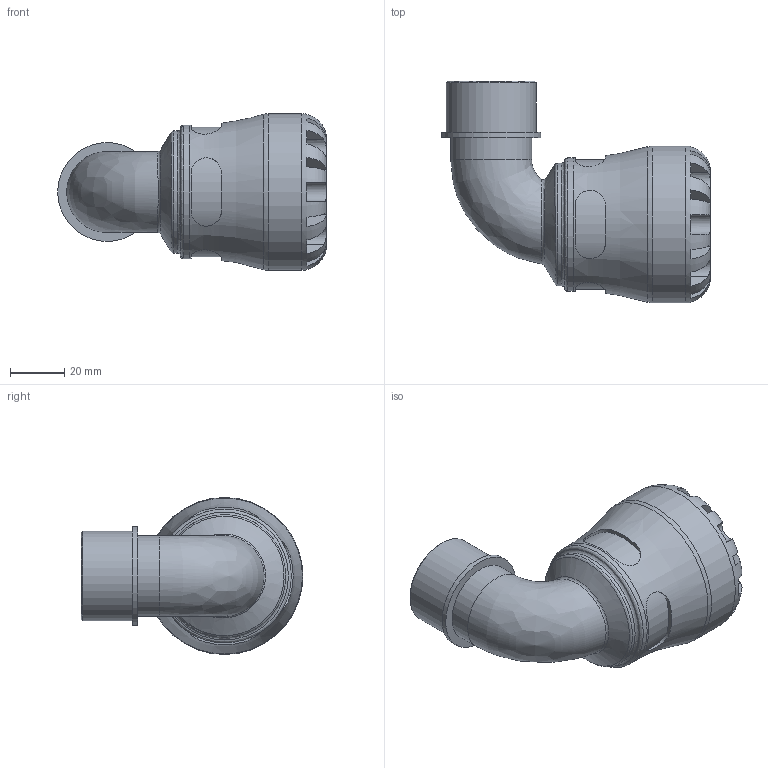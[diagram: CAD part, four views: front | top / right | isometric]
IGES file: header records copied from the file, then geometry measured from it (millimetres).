
Global section: file name: 108500032010_198500032010.ipt; native system: Autodesk Inventor 2015; preprocessor: unknown; author: KIM; date: 20190127.091521; units: millimetre
Bounding box: 99.29 x 82 x 58 mm (x, y, z)
Volume: 103628.5 mm3; surface area: 31623.6 mm2
Topology: 1 solids, 1 shells, 110 faces, 278 edges, 176 vertices
Faces by surface type: plane 61, revolution 26, cylinder 18, bspline 4, cone 1
Full cylindrical faces by diameter (mm): 29.924 x1, 33.249 x1, 36.574 x1, 45.24 x1, 49.3 x1, 58 x1
